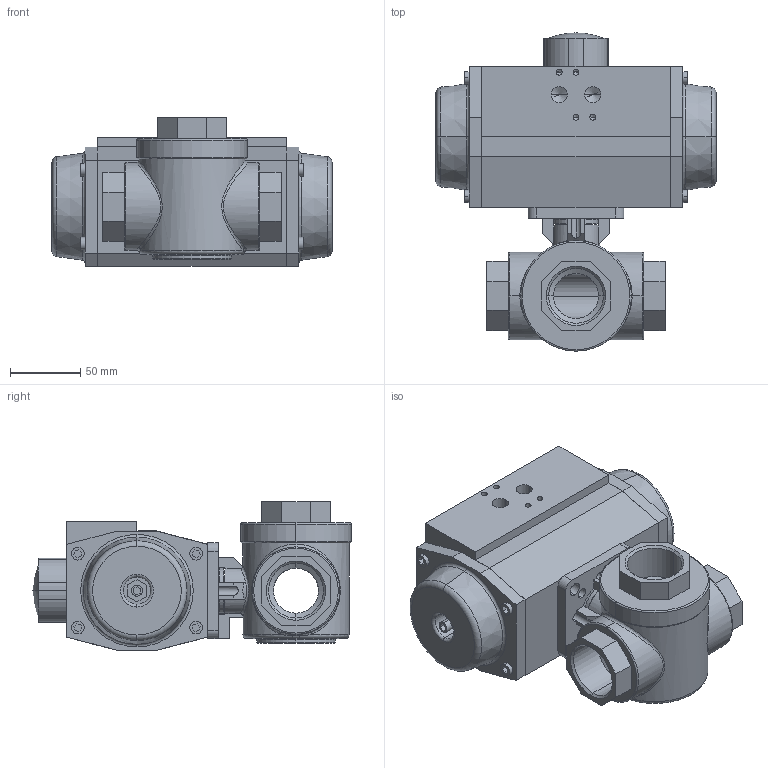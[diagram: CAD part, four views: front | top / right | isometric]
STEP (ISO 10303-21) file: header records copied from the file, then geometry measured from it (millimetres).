
FILE_DESCRIPTION (( 'STEP AP214' ), '1' );
FILE_NAME ('S57D DN32 G2 HB FB + AP3D L.STEP', '2014-09-09T13:44:51', ( '' ), ( '' ), 'SwSTEP 2.0', 'SolidWorks 2013', '' );
FILE_SCHEMA (( 'AUTOMOTIVE_DESIGN' ));
Length unit declared in the file: millimetre
Products named in the file (3): AP3 L_Default<As Machined>; S57D DN32-G1 1_4 FB; S57D DN32 G2 HB FB + AP3D L
Assembly tree (2 placements, depth 2):
  S57D DN32 G2 HB FB + AP3D L
    S57D DN32-G1 1_4 FB
    AP3 L_Default<As Machined>
Bounding box: 199 x 226.19 x 105.85 mm (x, y, z)
Volume: 1930476.5 mm3; surface area: 182043.4 mm2
Topology: 9 solids, 9 shells, 461 faces, 1158 edges, 725 vertices
Faces by surface type: plane 240, cylinder 130, cone 52, torus 26, bspline 11, sphere 2
Entity records: 17042 total; most frequent: CARTESIAN_POINT 4503, DIRECTION 2339, ORIENTED_EDGE 2244, EDGE_CURVE 1122, AXIS2_PLACEMENT_3D 803, VECTOR 733, LINE 733, VERTEX_POINT 725
